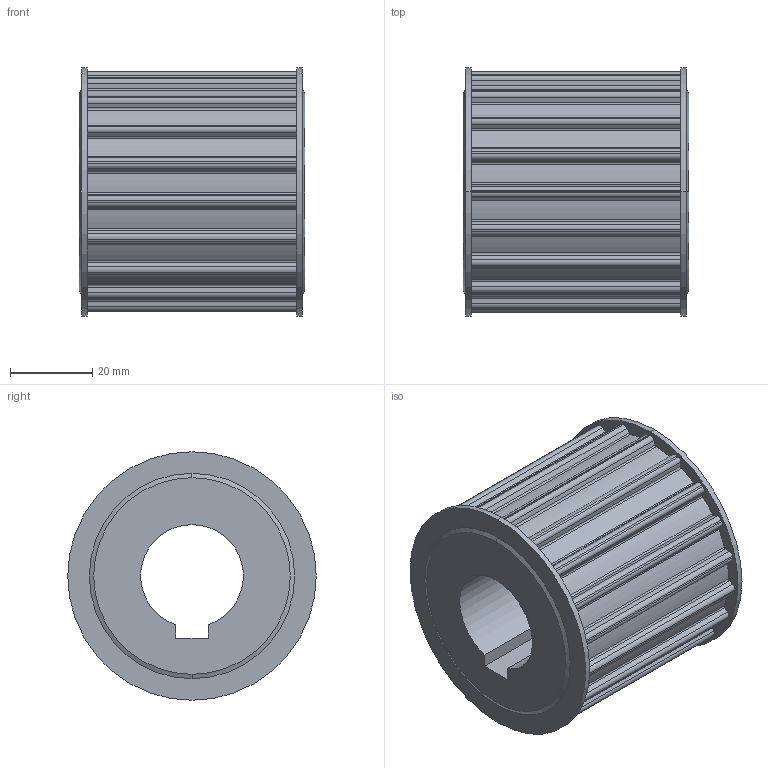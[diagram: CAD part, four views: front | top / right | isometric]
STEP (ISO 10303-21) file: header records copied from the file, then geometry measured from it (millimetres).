
FILE_DESCRIPTION (( 'STEP AP214' ), '1' );
FILE_NAME ('3.2007 Hammashihnapyörä 50AT10_19D25K8_0.STEP', '2026-02-10T10:40:42', ( '' ), ( '' ), 'SwSTEP 2.0', 'SolidWorks 2025', '' );
FILE_SCHEMA (( 'AUTOMOTIVE_DESIGN' ));
Length unit declared in the file: millimetre
Products named in the file (1): 3.2007 Hammashihnapyörä  50AT10_19D25K8_0
Bounding box: 55 x 60.5 x 60.5 mm (x, y, z)
Volume: 104826.9 mm3; surface area: 22706.8 mm2
Topology: 1 solids, 1 shells, 363 faces, 998 edges, 664 vertices
Faces by surface type: plane 148, cylinder 129, bspline 82, cone 4
Entity records: 16892 total; most frequent: CARTESIAN_POINT 7942, ORIENTED_EDGE 1996, DIRECTION 1646, EDGE_CURVE 998, VERTEX_POINT 664, VECTOR 570, LINE 570, AXIS2_PLACEMENT_3D 538
